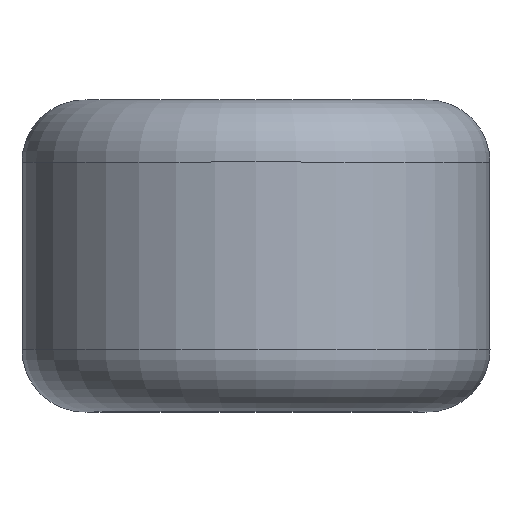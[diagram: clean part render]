
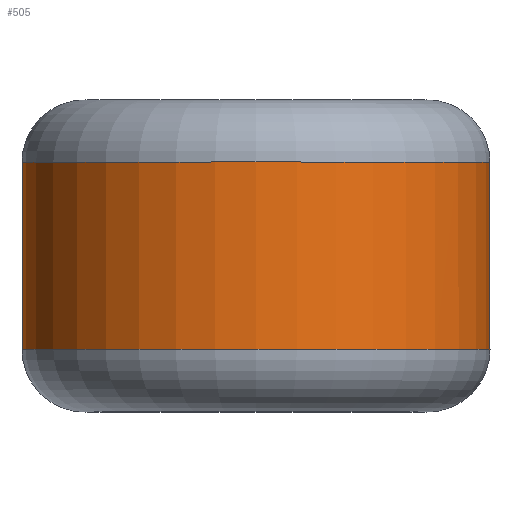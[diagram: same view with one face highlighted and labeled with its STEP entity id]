
A CAD part, top view. The second image highlights one B-rep face of the part: STEP entity #505.
In plain terms, the highlighted cylindrical face has radius 3.75 mm (diameter 7.5 mm), a full revolution.
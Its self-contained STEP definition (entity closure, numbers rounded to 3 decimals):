
#48=LINE('',#2056,#53);
#53=VECTOR('',#696,3.75);
#62=CYLINDRICAL_SURFACE('',#579,3.75);
#86=FACE_OUTER_BOUND('',#117,.T.);
#117=EDGE_LOOP('',(#432,#433,#434,#435,#436,#437,#438,#439,#440,#441,#442,
#443));
#145=CIRCLE('',#563,3.75);
#146=CIRCLE('',#564,3.75);
#147=CIRCLE('',#565,3.75);
#153=CIRCLE('',#572,3.75);
#154=CIRCLE('',#573,3.75);
#155=CIRCLE('',#574,3.75);
#178=B_SPLINE_CURVE_WITH_KNOTS('',3,(#1029,#1030,#1031,#1032,#1033,#1034,
#1035,#1036,#1037,#1038,#1039,#1040,#1041,#1042,#1043,#1044,#1045,#1046,
#1047,#1048,#1049,#1050),.UNSPECIFIED.,.F.,.F.,(4,3,3,3,3,3,3,4),(-0.127,
-0.11,-0.104,-0.081,-0.058,
-0.034,-0.023,-0.016),
 .UNSPECIFIED.);
#179=B_SPLINE_CURVE_WITH_KNOTS('',3,(#1051,#1052,#1053,#1054,#1055,#1056,
#1057,#1058,#1059,#1060),.UNSPECIFIED.,.F.,.F.,(4,2,1,1,1,1,4),(-0.299,
-0.294,-0.269,-0.245,-0.22,
-0.207,-0.17),.UNSPECIFIED.);
#189=B_SPLINE_CURVE_WITH_KNOTS('',3,(#1578,#1579,#1580,#1581,#1582,#1583,
#1584,#1585,#1586,#1587,#1588,#1589,#1590,#1591,#1592,#1593,#1594,#1595,
#1596,#1597,#1598,#1599),.UNSPECIFIED.,.F.,.F.,(4,3,3,3,3,3,3,4),(-0.127,
-0.11,-0.104,-0.081,-0.058,
-0.034,-0.023,-0.016),
 .UNSPECIFIED.);
#190=B_SPLINE_CURVE_WITH_KNOTS('',3,(#1600,#1601,#1602,#1603,#1604,#1605,
#1606,#1607,#1608,#1609),.UNSPECIFIED.,.F.,.F.,(4,2,1,1,1,1,4),(-0.299,
-0.294,-0.269,-0.245,-0.22,
-0.207,-0.17),.UNSPECIFIED.);
#211=VERTEX_POINT('',#912);
#217=VERTEX_POINT('',#1026);
#218=VERTEX_POINT('',#1028);
#223=VERTEX_POINT('',#1374);
#224=VERTEX_POINT('',#1377);
#225=VERTEX_POINT('',#1461);
#231=VERTEX_POINT('',#1575);
#232=VERTEX_POINT('',#1577);
#237=VERTEX_POINT('',#1923);
#238=VERTEX_POINT('',#1926);
#275=EDGE_CURVE('',#217,#218,#178,.T.);
#276=EDGE_CURVE('',#218,#211,#179,.T.);
#284=EDGE_CURVE('',#223,#217,#145,.T.);
#285=EDGE_CURVE('',#211,#224,#146,.T.);
#286=EDGE_CURVE('',#224,#223,#147,.T.);
#294=EDGE_CURVE('',#231,#232,#189,.T.);
#295=EDGE_CURVE('',#232,#225,#190,.T.);
#303=EDGE_CURVE('',#237,#231,#153,.T.);
#304=EDGE_CURVE('',#225,#238,#154,.T.);
#305=EDGE_CURVE('',#238,#237,#155,.T.);
#310=EDGE_CURVE('',#238,#224,#48,.T.);
#432=ORIENTED_EDGE('',*,*,#294,.F.);
#433=ORIENTED_EDGE('',*,*,#303,.F.);
#434=ORIENTED_EDGE('',*,*,#305,.F.);
#435=ORIENTED_EDGE('',*,*,#310,.T.);
#436=ORIENTED_EDGE('',*,*,#285,.F.);
#437=ORIENTED_EDGE('',*,*,#276,.F.);
#438=ORIENTED_EDGE('',*,*,#275,.F.);
#439=ORIENTED_EDGE('',*,*,#284,.F.);
#440=ORIENTED_EDGE('',*,*,#286,.F.);
#441=ORIENTED_EDGE('',*,*,#310,.F.);
#442=ORIENTED_EDGE('',*,*,#304,.F.);
#443=ORIENTED_EDGE('',*,*,#295,.F.);
#505=ADVANCED_FACE('',(#86),#62,.T.);
#563=AXIS2_PLACEMENT_3D('',#1376,#662,#663);
#564=AXIS2_PLACEMENT_3D('',#1378,#664,#665);
#565=AXIS2_PLACEMENT_3D('',#1379,#666,#667);
#572=AXIS2_PLACEMENT_3D('',#1925,#680,#681);
#573=AXIS2_PLACEMENT_3D('',#1927,#682,#683);
#574=AXIS2_PLACEMENT_3D('',#1928,#684,#685);
#579=AXIS2_PLACEMENT_3D('',#2055,#694,#695);
#662=DIRECTION('center_axis',(0.,1.,0.));
#663=DIRECTION('ref_axis',(-1.,0.,0.));
#664=DIRECTION('center_axis',(0.,1.,0.));
#665=DIRECTION('ref_axis',(-1.,0.,0.));
#666=DIRECTION('center_axis',(0.,1.,0.));
#667=DIRECTION('ref_axis',(-1.,0.,0.));
#680=DIRECTION('center_axis',(0.,-1.,0.));
#681=DIRECTION('ref_axis',(-1.,0.,0.));
#682=DIRECTION('center_axis',(0.,-1.,0.));
#683=DIRECTION('ref_axis',(-1.,0.,0.));
#684=DIRECTION('center_axis',(0.,-1.,0.));
#685=DIRECTION('ref_axis',(-1.,0.,0.));
#694=DIRECTION('center_axis',(0.,-1.,0.));
#695=DIRECTION('ref_axis',(1.,0.,0.));
#696=DIRECTION('',(0.,1.,0.));
#912=CARTESIAN_POINT('',(-2.412,1.5,-2.872));
#1026=CARTESIAN_POINT('',(-1.838,1.5,-3.269));
#1028=CARTESIAN_POINT('',(-2.002,-0.072,-3.171));
#1029=CARTESIAN_POINT('Ctrl Pts',(-1.838,1.5,-3.269));
#1030=CARTESIAN_POINT('Ctrl Pts',(-1.76,1.452,-3.313));
#1031=CARTESIAN_POINT('Ctrl Pts',(-1.687,1.386,-3.35));
#1032=CARTESIAN_POINT('Ctrl Pts',(-1.626,1.306,-3.379));
#1033=CARTESIAN_POINT('Ctrl Pts',(-1.606,1.279,-3.389));
#1034=CARTESIAN_POINT('Ctrl Pts',(-1.587,1.251,-3.398));
#1035=CARTESIAN_POINT('Ctrl Pts',(-1.569,1.221,-3.406));
#1036=CARTESIAN_POINT('Ctrl Pts',(-1.499,1.102,-3.438));
#1037=CARTESIAN_POINT('Ctrl Pts',(-1.454,0.96,-3.457));
#1038=CARTESIAN_POINT('Ctrl Pts',(-1.444,0.815,-3.461));
#1039=CARTESIAN_POINT('Ctrl Pts',(-1.434,0.669,-3.465));
#1040=CARTESIAN_POINT('Ctrl Pts',(-1.459,0.52,-3.455));
#1041=CARTESIAN_POINT('Ctrl Pts',(-1.513,0.389,-3.431));
#1042=CARTESIAN_POINT('Ctrl Pts',(-1.568,0.259,-3.407));
#1043=CARTESIAN_POINT('Ctrl Pts',(-1.651,0.147,-3.369));
#1044=CARTESIAN_POINT('Ctrl Pts',(-1.748,0.064,
-3.318));
#1045=CARTESIAN_POINT('Ctrl Pts',(-1.796,0.023,
-3.292));
#1046=CARTESIAN_POINT('Ctrl Pts',(-1.848,-0.01,
-3.264));
#1047=CARTESIAN_POINT('Ctrl Pts',(-1.902,-0.036,
-3.232));
#1048=CARTESIAN_POINT('Ctrl Pts',(-1.934,-0.051,
-3.213));
#1049=CARTESIAN_POINT('Ctrl Pts',(-1.968,-0.064,
-3.193));
#1050=CARTESIAN_POINT('Ctrl Pts',(-2.001,-0.073,
-3.171));
#1051=CARTESIAN_POINT('Ctrl Pts',(-2.002,-0.073,
-3.171));
#1052=CARTESIAN_POINT('Ctrl Pts',(-2.023,-0.079,
-3.158));
#1053=CARTESIAN_POINT('Ctrl Pts',(-2.044,-0.083,
-3.144));
#1054=CARTESIAN_POINT('Ctrl Pts',(-2.182,-0.104,
-3.054));
#1055=CARTESIAN_POINT('Ctrl Pts',(-2.413,-0.052,
-2.88));
#1056=CARTESIAN_POINT('Ctrl Pts',(-2.656,0.269,-2.651));
#1057=CARTESIAN_POINT('Ctrl Pts',(-2.727,0.658,-2.574));
#1058=CARTESIAN_POINT('Ctrl Pts',(-2.691,1.129,-2.612));
#1059=CARTESIAN_POINT('Ctrl Pts',(-2.556,1.394,-2.75));
#1060=CARTESIAN_POINT('Ctrl Pts',(-2.412,1.5,-2.872));
#1374=CARTESIAN_POINT('',(0.,1.5,3.75));
#1376=CARTESIAN_POINT('Origin',(0.,1.5,0.));
#1377=CARTESIAN_POINT('',(-3.75,1.5,0.));
#1378=CARTESIAN_POINT('Origin',(0.,1.5,0.));
#1379=CARTESIAN_POINT('Origin',(0.,1.5,0.));
#1461=CARTESIAN_POINT('',(2.412,-1.5,-2.872));
#1575=CARTESIAN_POINT('',(1.838,-1.5,-3.269));
#1577=CARTESIAN_POINT('',(2.002,0.072,-3.171));
#1578=CARTESIAN_POINT('Ctrl Pts',(1.838,-1.5,-3.269));
#1579=CARTESIAN_POINT('Ctrl Pts',(1.76,-1.452,-3.313));
#1580=CARTESIAN_POINT('Ctrl Pts',(1.687,-1.386,-3.35));
#1581=CARTESIAN_POINT('Ctrl Pts',(1.626,-1.306,-3.379));
#1582=CARTESIAN_POINT('Ctrl Pts',(1.606,-1.279,-3.389));
#1583=CARTESIAN_POINT('Ctrl Pts',(1.587,-1.251,-3.398));
#1584=CARTESIAN_POINT('Ctrl Pts',(1.569,-1.221,-3.406));
#1585=CARTESIAN_POINT('Ctrl Pts',(1.499,-1.102,-3.438));
#1586=CARTESIAN_POINT('Ctrl Pts',(1.454,-0.96,-3.457));
#1587=CARTESIAN_POINT('Ctrl Pts',(1.444,-0.815,-3.461));
#1588=CARTESIAN_POINT('Ctrl Pts',(1.434,-0.669,-3.465));
#1589=CARTESIAN_POINT('Ctrl Pts',(1.459,-0.52,-3.455));
#1590=CARTESIAN_POINT('Ctrl Pts',(1.513,-0.389,-3.431));
#1591=CARTESIAN_POINT('Ctrl Pts',(1.568,-0.259,-3.407));
#1592=CARTESIAN_POINT('Ctrl Pts',(1.651,-0.147,-3.369));
#1593=CARTESIAN_POINT('Ctrl Pts',(1.748,-0.064,
-3.318));
#1594=CARTESIAN_POINT('Ctrl Pts',(1.796,-0.023,
-3.292));
#1595=CARTESIAN_POINT('Ctrl Pts',(1.848,0.01,-3.264));
#1596=CARTESIAN_POINT('Ctrl Pts',(1.902,0.036,-3.232));
#1597=CARTESIAN_POINT('Ctrl Pts',(1.934,0.051,-3.213));
#1598=CARTESIAN_POINT('Ctrl Pts',(1.968,0.064,-3.193));
#1599=CARTESIAN_POINT('Ctrl Pts',(2.001,0.073,-3.171));
#1600=CARTESIAN_POINT('Ctrl Pts',(2.002,0.073,-3.171));
#1601=CARTESIAN_POINT('Ctrl Pts',(2.023,0.079,-3.158));
#1602=CARTESIAN_POINT('Ctrl Pts',(2.044,0.083,-3.144));
#1603=CARTESIAN_POINT('Ctrl Pts',(2.182,0.104,-3.054));
#1604=CARTESIAN_POINT('Ctrl Pts',(2.413,0.052,-2.88));
#1605=CARTESIAN_POINT('Ctrl Pts',(2.656,-0.269,-2.651));
#1606=CARTESIAN_POINT('Ctrl Pts',(2.727,-0.658,-2.574));
#1607=CARTESIAN_POINT('Ctrl Pts',(2.691,-1.129,-2.612));
#1608=CARTESIAN_POINT('Ctrl Pts',(2.556,-1.394,-2.75));
#1609=CARTESIAN_POINT('Ctrl Pts',(2.412,-1.5,-2.872));
#1923=CARTESIAN_POINT('',(0.,-1.5,-3.75));
#1925=CARTESIAN_POINT('Origin',(0.,-1.5,0.));
#1926=CARTESIAN_POINT('',(-3.75,-1.5,0.));
#1927=CARTESIAN_POINT('Origin',(0.,-1.5,0.));
#1928=CARTESIAN_POINT('Origin',(0.,-1.5,0.));
#2055=CARTESIAN_POINT('Origin',(0.,0.,
0.));
#2056=CARTESIAN_POINT('',(-3.75,0.,0.));
